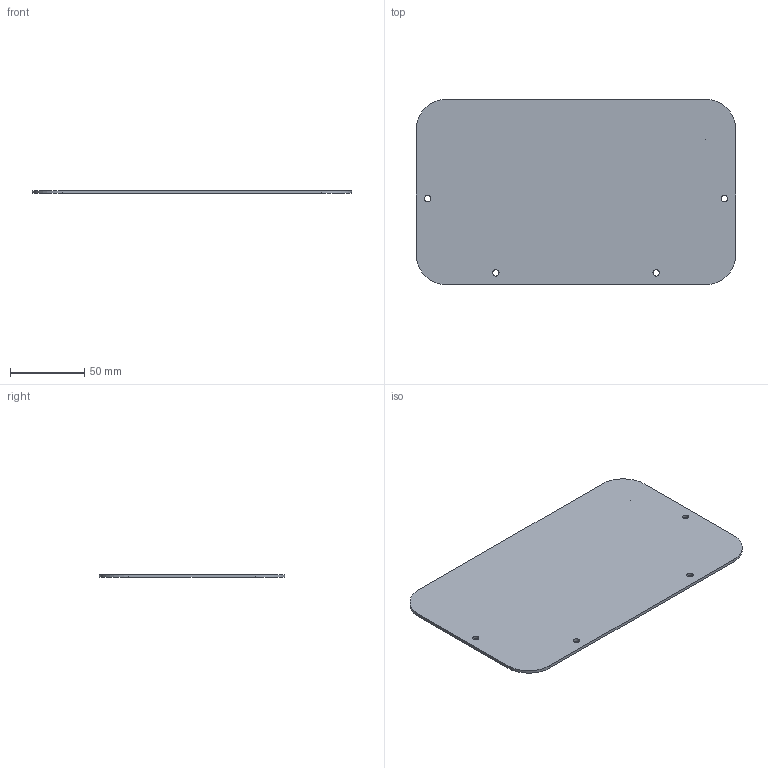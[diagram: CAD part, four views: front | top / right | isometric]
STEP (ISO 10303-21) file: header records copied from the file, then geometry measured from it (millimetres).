
FILE_DESCRIPTION (( 'STEP AP203' ), '1' );
FILE_NAME ('ORW-71.24.20.001 Ïàíåëü ïåðåäíÿÿ.STEP', '2024-12-02T08:07:30', ( 'Àíäðåé' ), ( '' ), 'SwSTEP 2.0', 'SolidWorks 2023', '' );
FILE_SCHEMA (( 'CONFIG_CONTROL_DESIGN' ));
Length unit declared in the file: millimetre
Products named in the file (1): ORW-71.24.20.001 Панель передняя
Bounding box: 215 x 125 x 2 mm (x, y, z)
Volume: 52946.7 mm3; surface area: 54349.2 mm2
Topology: 1 solids, 1 shells, 15 faces, 40 edges, 27 vertices
Faces by surface type: cylinder 9, plane 6
Full cylindrical faces by diameter (mm): 0.5 x1, 4.3 x4
Entity records: 543 total; most frequent: DIRECTION 84, CARTESIAN_POINT 76, ORIENTED_EDGE 68, AXIS2_PLACEMENT_3D 34, EDGE_CURVE 34, EDGE_LOOP 30, VERTEX_POINT 26, FACE_OUTER_BOUND 20
